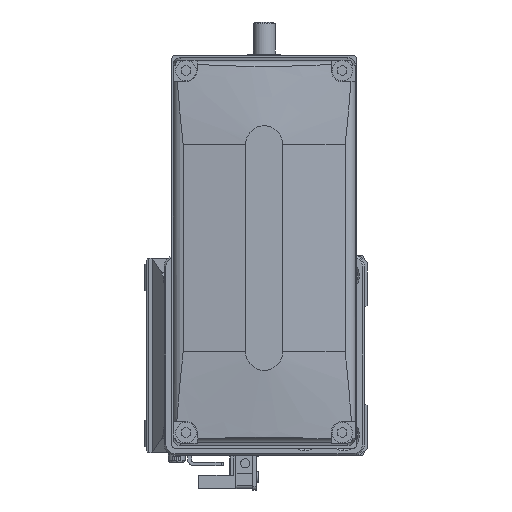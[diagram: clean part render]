
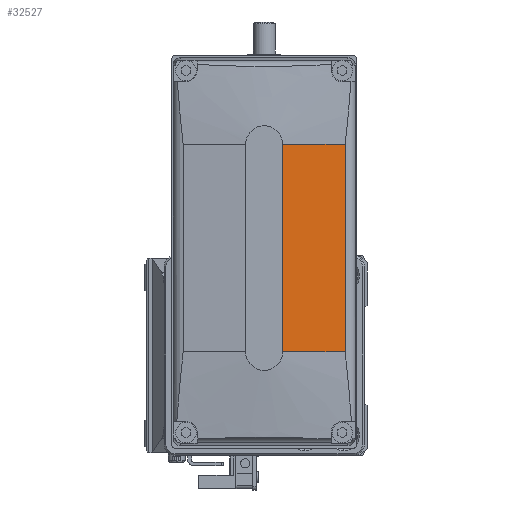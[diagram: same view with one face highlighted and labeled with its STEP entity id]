
A CAD part, left-side view. The second image highlights one B-rep face of the part: STEP entity #32527.
In plain terms, the highlighted planar face has unit normal (-0.996, -0.087, 0) as drawn and (-0.996, 0, -0.087) by its records, which use the part's own axes.
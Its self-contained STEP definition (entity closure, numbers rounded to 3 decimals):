
#990 = CARTESIAN_POINT ( 'NONE',  ( -48.525, 28., -21.861 ) ) ;
#4075 = ORIENTED_EDGE ( 'NONE', *, *, #9057, .F. ) ;
#5705 = CARTESIAN_POINT ( 'NONE',  ( -50., 28., -5. ) ) ;
#7493 = ORIENTED_EDGE ( 'NONE', *, *, #32006, .T. ) ;
#8198 = CARTESIAN_POINT ( 'NONE',  ( 43606.406, -28., -499000. ) ) ;
#9057 = EDGE_CURVE ( 'NONE', #35922, #20875, #20928, .T. ) ;
#9374 = CARTESIAN_POINT ( 'NONE',  ( -50., 128., -5. ) ) ;
#13160 = EDGE_LOOP ( 'NONE', ( #33975, #35130, #4075, #7493 ) ) ;
#13802 = VECTOR ( 'NONE', #35111, 1000. ) ;
#15238 = CARTESIAN_POINT ( 'NONE',  ( -48.525, 128., -21.861 ) ) ;
#15622 = DIRECTION ( 'NONE',  ( -0.996, 0., -0.087 ) ) ;
#16041 = LINE ( 'NONE', #15238, #13802 ) ;
#18517 = DIRECTION ( 'NONE',  ( -0.087, 0., 0.996 ) ) ;
#19798 = DIRECTION ( 'NONE',  ( -0.087, 0., 0.996 ) ) ;
#19817 = DIRECTION ( 'NONE',  ( 0.087, 0., -0.996 ) ) ;
#20875 = VERTEX_POINT ( 'NONE', #24176 ) ;
#20928 = LINE ( 'NONE', #8198, #33035 ) ;
#21065 = CARTESIAN_POINT ( 'NONE',  ( -50., 128., -5. ) ) ;
#22396 = EDGE_CURVE ( 'NONE', #27359, #30033, #29030, .T. ) ;
#23843 = CARTESIAN_POINT ( 'NONE',  ( -50., -28., -5. ) ) ;
#24176 = CARTESIAN_POINT ( 'NONE',  ( -48.525, -28., -21.861 ) ) ;
#25224 = AXIS2_PLACEMENT_3D ( 'NONE', #21065, #15622, #18517 ) ;
#27168 = DIRECTION ( 'NONE',  ( 0., 1., 0. ) ) ;
#27359 = VERTEX_POINT ( 'NONE', #990 ) ;
#29030 = LINE ( 'NONE', #36236, #31315 ) ;
#30033 = VERTEX_POINT ( 'NONE', #5705 ) ;
#30036 = PLANE ( 'NONE',  #25224 ) ;
#30655 = EDGE_CURVE ( 'NONE', #20875, #27359, #16041, .T. ) ;
#31315 = VECTOR ( 'NONE', #19798, 1000. ) ;
#31341 = LINE ( 'NONE', #9374, #33120 ) ;
#32006 = EDGE_CURVE ( 'NONE', #35922, #30033, #31341, .T. ) ;
#32527 = ADVANCED_FACE ( 'NONE', ( #36277 ), #30036, .T. ) ;
#33035 = VECTOR ( 'NONE', #19817, 1000. ) ;
#33120 = VECTOR ( 'NONE', #27168, 1000. ) ;
#33975 = ORIENTED_EDGE ( 'NONE', *, *, #22396, .F. ) ;
#35111 = DIRECTION ( 'NONE',  ( 0., 1., 0. ) ) ;
#35130 = ORIENTED_EDGE ( 'NONE', *, *, #30655, .F. ) ;
#35922 = VERTEX_POINT ( 'NONE', #23843 ) ;
#36236 = CARTESIAN_POINT ( 'NONE',  ( 43606.406, 28., -499000. ) ) ;
#36277 = FACE_OUTER_BOUND ( 'NONE', #13160, .T. ) ;
